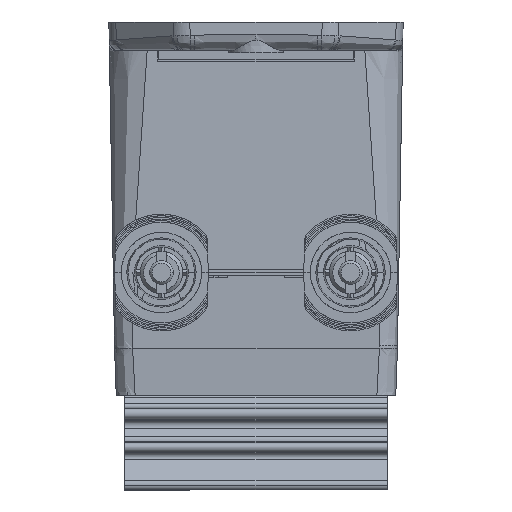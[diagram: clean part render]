
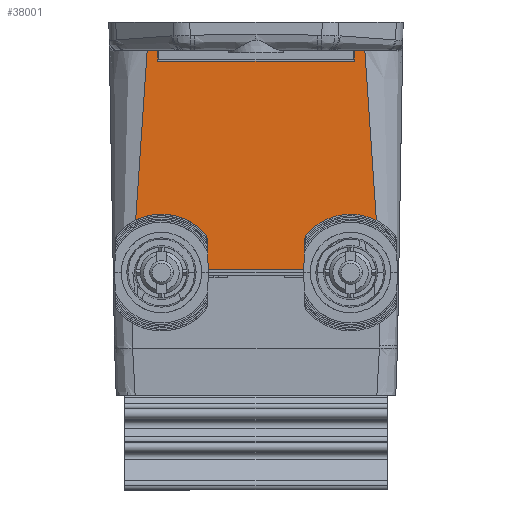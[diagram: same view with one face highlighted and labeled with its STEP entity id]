
A CAD part, front view. The second image highlights one B-rep face of the part: STEP entity #38001.
In plain terms, the highlighted planar face has unit normal (0, -1, 0.018).
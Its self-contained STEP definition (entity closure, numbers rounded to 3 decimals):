
#653=CARTESIAN_POINT('',(11.521,-48.792,-10.4));
#654=CARTESIAN_POINT('',(11.547,-48.786,-10.032));
#655=CARTESIAN_POINT('',(11.638,-48.775,-9.393));
#656=CARTESIAN_POINT('',(11.836,-48.761,-8.591));
#657=CARTESIAN_POINT('',(12.077,-48.749,-7.896));
#658=CARTESIAN_POINT('',(12.439,-48.734,-7.075));
#659=CARTESIAN_POINT('',(12.952,-48.719,-6.202));
#660=CARTESIAN_POINT('',(13.637,-48.704,-5.33));
#661=CARTESIAN_POINT('',(14.378,-48.691,-4.598));
#662=CARTESIAN_POINT('',(15.429,-48.677,-3.781));
#663=CARTESIAN_POINT('',(16.849,-48.664,-3.03));
#664=CARTESIAN_POINT('',(18.399,-48.656,-2.607));
#665=CARTESIAN_POINT('',(19.724,-48.654,-2.484));
#666=CARTESIAN_POINT('',(20.765,-48.655,-2.512));
#667=CARTESIAN_POINT('',(21.861,-48.658,-2.68));
#668=CARTESIAN_POINT('',(22.833,-48.663,-2.965));
#669=CARTESIAN_POINT('',(23.659,-48.669,-3.317));
#670=CARTESIAN_POINT('',(24.309,-48.675,-3.66));
#671=CARTESIAN_POINT('',(25.002,-48.683,-4.109));
#672=CARTESIAN_POINT('',(25.505,-48.69,-4.513));
#673=CARTESIAN_POINT('',(25.776,-48.694,-4.764));
#882=CARTESIAN_POINT('',(23.026,-47.983,36.));
#4070=CARTESIAN_POINT('',(-25.776,-48.694,
-4.764));
#4071=CARTESIAN_POINT('',(-25.714,-48.678,
-3.839));
#4072=CARTESIAN_POINT('',(-25.586,-48.645,
-1.944));
#4073=CARTESIAN_POINT('',(-25.393,-48.595,
0.922));
#4074=CARTESIAN_POINT('',(-25.197,-48.544,
3.834));
#4075=CARTESIAN_POINT('',(-25.,-48.493,
6.746));
#4076=CARTESIAN_POINT('',(-24.803,-48.442,
9.658));
#4077=CARTESIAN_POINT('',(-24.54,-48.375,
13.54));
#4078=CARTESIAN_POINT('',(-24.211,-48.29,
18.394));
#4079=CARTESIAN_POINT('',(-23.818,-48.188,
24.218));
#4080=CARTESIAN_POINT('',(-23.426,-48.087,
30.042));
#4081=CARTESIAN_POINT('',(-23.162,-48.018,
33.969));
#4082=CARTESIAN_POINT('',(-23.029,-47.983,
35.955));
#4083=CARTESIAN_POINT('',(-23.026,-47.983,
36.));
#4085=DIRECTION('',(1.,0.,0.));
#4086=VECTOR('',#4085,1.326);
#4087=CARTESIAN_POINT('',(-23.026,-47.983,
36.));
#4088=LINE('',#4087,#4086);
#4089=DIRECTION('',(1.,0.,0.));
#4090=VECTOR('',#4089,0.823);
#4091=CARTESIAN_POINT('',(-21.7,-47.983,36.));
#4092=LINE('',#4091,#4090);
#4093=DIRECTION('',(1.,0.,0.));
#4094=VECTOR('',#4093,41.593);
#4095=CARTESIAN_POINT('',(-20.797,-48.023,33.7));
#4096=LINE('',#4095,#4094);
#4097=DIRECTION('',(0.035,0.017,0.999));
#4098=VECTOR('',#4097,2.302);
#4099=CARTESIAN_POINT('',(20.797,-48.023,33.7));
#4100=LINE('',#4099,#4098);
#4101=DIRECTION('',(1.,0.,0.));
#4102=VECTOR('',#4101,0.823);
#4103=CARTESIAN_POINT('',(20.877,-47.983,36.));
#4104=LINE('',#4103,#4102);
#4105=DIRECTION('',(1.,0.,0.));
#4106=VECTOR('',#4105,1.326);
#4107=CARTESIAN_POINT('',(21.7,-47.983,36.));
#4108=LINE('',#4107,#4106);
#4109=CARTESIAN_POINT('',(23.026,-47.983,36.));
#4110=CARTESIAN_POINT('',(23.029,-47.983,35.955));
#4111=CARTESIAN_POINT('',(23.162,-48.018,33.969));
#4112=CARTESIAN_POINT('',(23.426,-48.087,30.042));
#4113=CARTESIAN_POINT('',(23.818,-48.188,24.218));
#4114=CARTESIAN_POINT('',(24.211,-48.29,18.394));
#4115=CARTESIAN_POINT('',(24.54,-48.375,13.54));
#4116=CARTESIAN_POINT('',(24.803,-48.442,9.658));
#4117=CARTESIAN_POINT('',(25.,-48.493,6.746));
#4118=CARTESIAN_POINT('',(25.197,-48.544,3.834));
#4119=CARTESIAN_POINT('',(25.393,-48.595,
0.922));
#4120=CARTESIAN_POINT('',(25.586,-48.645,
-1.944));
#4121=CARTESIAN_POINT('',(25.714,-48.678,
-3.839));
#4122=CARTESIAN_POINT('',(25.776,-48.694,
-4.764));
#4124=DIRECTION('',(1.,0.,0.));
#4125=VECTOR('',#4124,23.042);
#4126=CARTESIAN_POINT('',(-11.521,-48.792,-10.4));
#4127=LINE('',#4126,#4125);
#12061=CARTESIAN_POINT('',(-25.776,-48.694,
-4.764));
#12062=CARTESIAN_POINT('',(-25.505,-48.69,
-4.513));
#12063=CARTESIAN_POINT('',(-25.002,-48.683,
-4.109));
#12064=CARTESIAN_POINT('',(-24.309,-48.675,
-3.66));
#12065=CARTESIAN_POINT('',(-23.659,-48.669,
-3.317));
#12066=CARTESIAN_POINT('',(-22.833,-48.663,
-2.965));
#12067=CARTESIAN_POINT('',(-21.861,-48.658,
-2.68));
#12068=CARTESIAN_POINT('',(-20.765,-48.655,
-2.512));
#12069=CARTESIAN_POINT('',(-19.724,-48.654,
-2.484));
#12070=CARTESIAN_POINT('',(-18.399,-48.656,
-2.607));
#12071=CARTESIAN_POINT('',(-16.849,-48.664,
-3.03));
#12072=CARTESIAN_POINT('',(-15.429,-48.677,
-3.781));
#12073=CARTESIAN_POINT('',(-14.378,-48.691,
-4.598));
#12074=CARTESIAN_POINT('',(-13.637,-48.704,
-5.33));
#12075=CARTESIAN_POINT('',(-12.952,-48.719,
-6.202));
#12076=CARTESIAN_POINT('',(-12.439,-48.734,
-7.075));
#12077=CARTESIAN_POINT('',(-12.077,-48.749,
-7.896));
#12078=CARTESIAN_POINT('',(-11.836,-48.761,
-8.591));
#12079=CARTESIAN_POINT('',(-11.638,-48.775,
-9.393));
#12080=CARTESIAN_POINT('',(-11.547,-48.786,
-10.032));
#12081=CARTESIAN_POINT('',(-11.521,-48.792,-10.4));
#15501=DIRECTION('',(-0.035,0.017,0.999));
#15502=VECTOR('',#15501,2.302);
#15503=CARTESIAN_POINT('',(-20.797,-48.023,33.7));
#15504=LINE('',#15503,#15502);
#30870=VERTEX_POINT('',#882);
#30871=VERTEX_POINT('',#4122);
#30872=CARTESIAN_POINT('',(21.7,-47.983,36.));
#30873=VERTEX_POINT('',#30872);
#30946=CARTESIAN_POINT('',(20.877,-47.983,36.));
#30947=VERTEX_POINT('',#30946);
#30948=CARTESIAN_POINT('',(20.797,-48.023,33.7));
#30949=VERTEX_POINT('',#30948);
#30958=CARTESIAN_POINT('',(-20.797,-48.023,33.7));
#30959=VERTEX_POINT('',#30958);
#30960=CARTESIAN_POINT('',(-20.877,-47.983,36.));
#30961=VERTEX_POINT('',#30960);
#30962=CARTESIAN_POINT('',(-21.7,-47.983,36.));
#30963=VERTEX_POINT('',#30962);
#30964=CARTESIAN_POINT('',(-23.026,-47.983,
36.));
#30965=VERTEX_POINT('',#30964);
#31059=VERTEX_POINT('',#653);
#31060=CARTESIAN_POINT('',(-11.521,-48.792,-10.4));
#31061=VERTEX_POINT('',#31060);
#31066=VERTEX_POINT('',#12061);
#37977=CARTESIAN_POINT('',(0.,-48.,35.));
#37978=DIRECTION('',(0.,1.,-0.017));
#37979=DIRECTION('',(1.,0.,0.));
#37980=AXIS2_PLACEMENT_3D('',#37977,#37978,#37979);
#37981=PLANE('',#37980);
#37983=ORIENTED_EDGE('',*,*,#37982,.F.);
#37985=ORIENTED_EDGE('',*,*,#37984,.F.);
#37986=ORIENTED_EDGE('',*,*,#37950,.T.);
#37987=ORIENTED_EDGE('',*,*,#36703,.T.);
#37988=ORIENTED_EDGE('',*,*,#34225,.T.);
#37990=ORIENTED_EDGE('',*,*,#37989,.F.);
#37992=ORIENTED_EDGE('',*,*,#37991,.T.);
#37994=ORIENTED_EDGE('',*,*,#37993,.T.);
#37995=ORIENTED_EDGE('',*,*,#34217,.T.);
#37996=ORIENTED_EDGE('',*,*,#36528,.T.);
#37997=ORIENTED_EDGE('',*,*,#33718,.T.);
#37998=ORIENTED_EDGE('',*,*,#33493,.F.);
#37999=EDGE_LOOP('',(#37983,#37985,#37986,#37987,#37988,#37990,#37992,#37994,
#37995,#37996,#37997,#37998));
#38000=FACE_OUTER_BOUND('',#37999,.F.);
#38001=ADVANCED_FACE('',(#38000),#37981,.F.);
#674=B_SPLINE_CURVE_WITH_KNOTS('',3,(#653,#654,#655,#656,#657,#658,#659,#660,
#661,#662,#663,#664,#665,#666,#667,#668,#669,#670,#671,#672,#673),.UNSPECIFIED.,
.F.,.F.,(4,1,1,1,1,1,1,1,1,1,1,1,1,1,1,1,1,1,4),(0.,0.031,0.063,0.094,
0.125,0.188,0.25,0.313,0.375,0.5,0.625,0.688,0.75,0.813,
0.875,0.906,0.938,0.969,1.),.UNSPECIFIED.);
#4084=B_SPLINE_CURVE_WITH_KNOTS('',3,(#4070,#4071,#4072,#4073,#4074,#4075,#4076,
#4077,#4078,#4079,#4080,#4081,#4082,#4083),.UNSPECIFIED.,.F.,.F.,(4,1,1,1,1,1,1,
1,1,1,1,4),(0.,0.068,0.139,0.211,
0.282,0.354,0.425,0.568,
0.711,0.854,0.997,1.),.UNSPECIFIED.);
#4123=B_SPLINE_CURVE_WITH_KNOTS('',3,(#4109,#4110,#4111,#4112,#4113,#4114,#4115,
#4116,#4117,#4118,#4119,#4120,#4121,#4122),.UNSPECIFIED.,.F.,.F.,(4,1,1,1,1,1,1,
1,1,1,1,4),(0.,0.003,0.146,0.289,
0.432,0.575,0.646,0.718,
0.789,0.861,0.932,1.),.UNSPECIFIED.);
#12082=B_SPLINE_CURVE_WITH_KNOTS('',3,(#12061,#12062,#12063,#12064,#12065,
#12066,#12067,#12068,#12069,#12070,#12071,#12072,#12073,#12074,#12075,#12076,
#12077,#12078,#12079,#12080,#12081),.UNSPECIFIED.,.F.,.F.,(4,1,1,1,1,1,1,1,1,1,
1,1,1,1,1,1,1,1,4),(0.,0.031,0.063,0.094,0.125,0.188,0.25,
0.313,0.375,0.5,0.625,0.688,0.75,0.813,0.875,0.906,
0.938,0.969,1.),.UNSPECIFIED.);
#33493=EDGE_CURVE('',#31059,#30871,#674,.T.);
#33718=EDGE_CURVE('',#30870,#30871,#4123,.T.);
#34217=EDGE_CURVE('',#30947,#30873,#4104,.T.);
#34225=EDGE_CURVE('',#30963,#30961,#4092,.T.);
#36528=EDGE_CURVE('',#30873,#30870,#4108,.T.);
#36703=EDGE_CURVE('',#30965,#30963,#4088,.T.);
#37950=EDGE_CURVE('',#31066,#30965,#4084,.T.);
#37982=EDGE_CURVE('',#31061,#31059,#4127,.T.);
#37984=EDGE_CURVE('',#31066,#31061,#12082,.T.);
#37989=EDGE_CURVE('',#30959,#30961,#15504,.T.);
#37991=EDGE_CURVE('',#30959,#30949,#4096,.T.);
#37993=EDGE_CURVE('',#30949,#30947,#4100,.T.);
